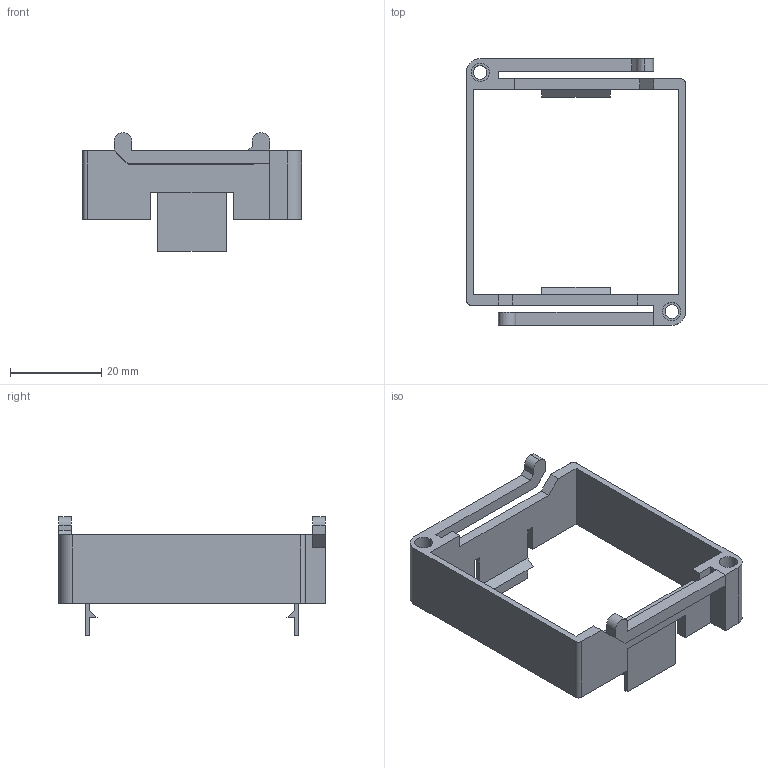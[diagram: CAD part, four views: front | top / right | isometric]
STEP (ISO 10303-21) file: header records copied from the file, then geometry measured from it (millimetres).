
FILE_DESCRIPTION (( 'STEP AP203' ), '1' );
FILE_NAME ('T48.STEP', '2019-02-13T20:29:35', ( '' ), ( '' ), 'SwSTEP 2.0', 'SolidWorks 2012', '' );
FILE_SCHEMA (( 'CONFIG_CONTROL_DESIGN' ));
Length unit declared in the file: millimetre
Products named in the file (1): T48
Bounding box: 48 x 58.4 x 26 mm (x, y, z)
Volume: 6029.6 mm3; surface area: 7979.7 mm2
Topology: 2 solids, 2 shells, 73 faces, 207 edges, 138 vertices
Faces by surface type: plane 58, cylinder 15
Entity records: 2438 total; most frequent: CARTESIAN_POINT 419, ORIENTED_EDGE 414, DIRECTION 385, EDGE_CURVE 207, LINE 177, VECTOR 177, VERTEX_POINT 138, AXIS2_PLACEMENT_3D 104
